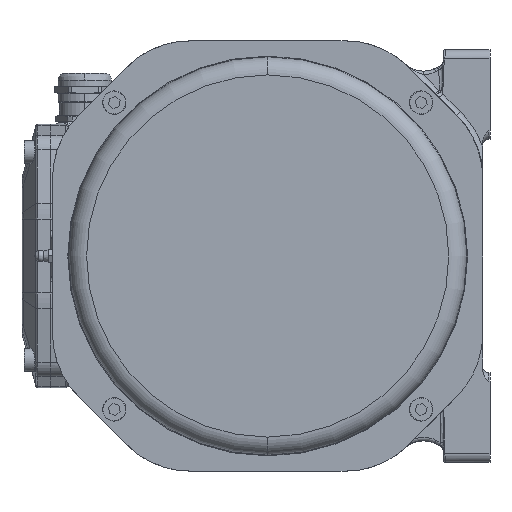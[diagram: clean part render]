
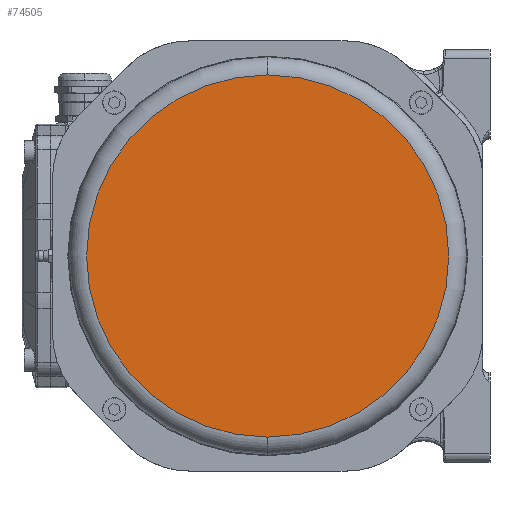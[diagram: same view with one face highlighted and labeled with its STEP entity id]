
A CAD part, left-side view. The second image highlights one B-rep face of the part: STEP entity #74505.
In plain terms, the highlighted planar face has unit normal (-1, 0, 0).
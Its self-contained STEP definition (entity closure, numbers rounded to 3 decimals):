
#850 = DIRECTION ( 'NONE',  ( -1., 0., 0. ) ) ;
#3277 = VERTEX_POINT ( 'NONE', #50200 ) ;
#7186 = CARTESIAN_POINT ( 'NONE',  ( -201., 0., -101. ) ) ;
#7678 = EDGE_CURVE ( 'NONE', #71191, #3277, #11315, .T. ) ;
#11315 = CIRCLE ( 'NONE', #21900, 101. ) ;
#20778 = CIRCLE ( 'NONE', #33686, 101. ) ;
#21900 = AXIS2_PLACEMENT_3D ( 'NONE', #32358, #83784, #39804 ) ;
#26546 = DIRECTION ( 'NONE',  ( -1., 0., 0. ) ) ;
#32313 = EDGE_LOOP ( 'NONE', ( #82110, #67030 ) ) ;
#32358 = CARTESIAN_POINT ( 'NONE',  ( -201., 0., 0. ) ) ;
#33686 = AXIS2_PLACEMENT_3D ( 'NONE', #44884, #850, #52250 ) ;
#39804 = DIRECTION ( 'NONE',  ( 0., 0., 1. ) ) ;
#44884 = CARTESIAN_POINT ( 'NONE',  ( -201., 0., 0. ) ) ;
#46394 = EDGE_CURVE ( 'NONE', #3277, #71191, #20778, .T. ) ;
#48439 = AXIS2_PLACEMENT_3D ( 'NONE', #55864, #26546, #77973 ) ;
#50200 = CARTESIAN_POINT ( 'NONE',  ( -201., 0., 101. ) ) ;
#52250 = DIRECTION ( 'NONE',  ( 0., 0., 1. ) ) ;
#55864 = CARTESIAN_POINT ( 'NONE',  ( -201., 0., 0. ) ) ;
#62610 = PLANE ( 'NONE',  #48439 ) ;
#67030 = ORIENTED_EDGE ( 'NONE', *, *, #7678, .T. ) ;
#71191 = VERTEX_POINT ( 'NONE', #7186 ) ;
#74505 = ADVANCED_FACE ( 'NONE', ( #86460 ), #62610, .T. ) ;
#77973 = DIRECTION ( 'NONE',  ( 0., 0., 1. ) ) ;
#82110 = ORIENTED_EDGE ( 'NONE', *, *, #46394, .T. ) ;
#83784 = DIRECTION ( 'NONE',  ( -1., 0., 0. ) ) ;
#86460 = FACE_OUTER_BOUND ( 'NONE', #32313, .T. ) ;
